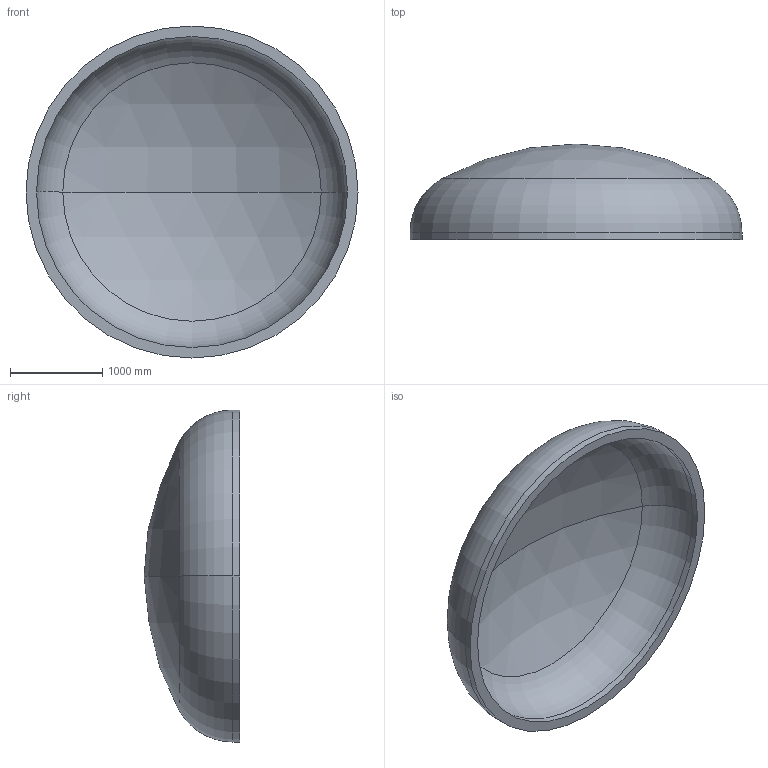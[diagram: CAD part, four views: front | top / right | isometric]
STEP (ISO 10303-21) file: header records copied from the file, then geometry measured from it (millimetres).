
FILE_DESCRIPTION (( 'STEP AP203' ), '1' );
FILE_NAME ('DIN 28013 Korbbogenform_-_Boden DIN 28013 - 3600 x 75 - I - s=114.step', '2016-07-01T20:53:53', ( '' ), ( '' ), 'SwSTEP 2.0', 'SolidWorks 2013', '' );
FILE_SCHEMA (( 'CONFIG_CONTROL_DESIGN' ));
Length unit declared in the file: millimetre
Products named in the file (1): DIN 28013 Korbbogenform_-_Boden DIN 28013 - 3600 x 75 - I - s=114
Bounding box: 3600 x 1037.63 x 3600 mm (x, y, z)
Volume: 1636037477.1 mm3; surface area: 29978102.5 mm2
Topology: 1 solids, 1 shells, 13 faces, 24 edges, 14 vertices
Faces by surface type: torus 4, cylinder 4, sphere 4, plane 1
Entity records: 407 total; most frequent: DIRECTION 72, CARTESIAN_POINT 52, ORIENTED_EDGE 48, AXIS2_PLACEMENT_3D 34, EDGE_CURVE 24, CIRCLE 20, EDGE_LOOP 14, VERTEX_POINT 14
